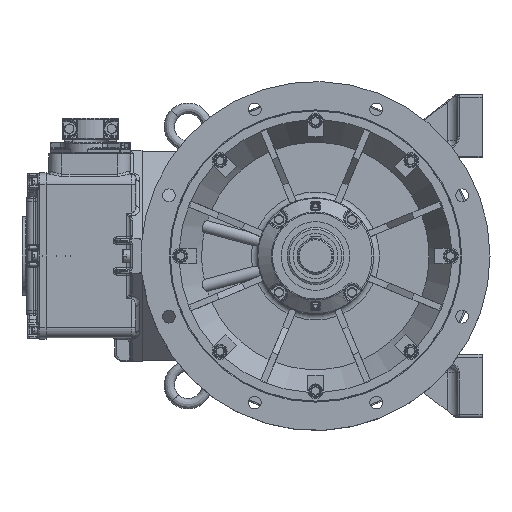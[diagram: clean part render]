
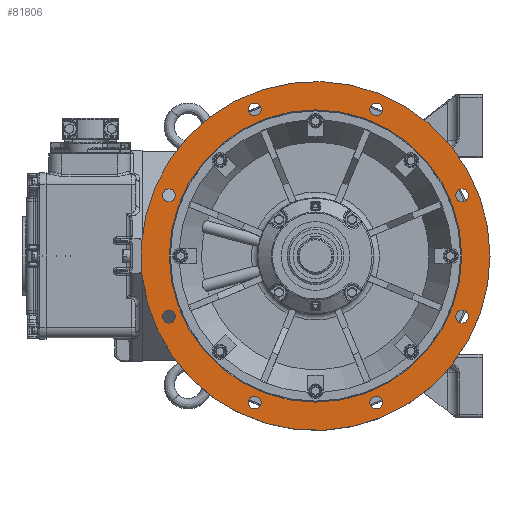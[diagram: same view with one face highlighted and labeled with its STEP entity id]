
A CAD part, left-side view. The second image highlights one B-rep face of the part: STEP entity #81806.
In plain terms, the highlighted planar face has unit normal (-1, 0, 0).
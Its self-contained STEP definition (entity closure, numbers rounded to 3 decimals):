
#20386=ORIENTED_EDGE('',*,*,#32660,.F.);
#20387=ORIENTED_EDGE('',*,*,#32662,.F.);
#20388=ORIENTED_EDGE('',*,*,#32664,.F.);
#20389=ORIENTED_EDGE('',*,*,#32666,.F.);
#20390=ORIENTED_EDGE('',*,*,#32668,.F.);
#20391=ORIENTED_EDGE('',*,*,#32670,.F.);
#20392=ORIENTED_EDGE('',*,*,#32672,.F.);
#20393=ORIENTED_EDGE('',*,*,#32674,.F.);
#20394=ORIENTED_EDGE('',*,*,#32957,.F.);
#20395=ORIENTED_EDGE('',*,*,#32958,.T.);
#32660=EDGE_CURVE('',#39643,#39643,#43518,.T.);
#32662=EDGE_CURVE('',#39645,#39645,#43520,.T.);
#32664=EDGE_CURVE('',#39647,#39647,#43522,.T.);
#32666=EDGE_CURVE('',#39649,#39649,#43524,.T.);
#32668=EDGE_CURVE('',#39651,#39651,#43526,.T.);
#32670=EDGE_CURVE('',#39653,#39653,#43528,.T.);
#32672=EDGE_CURVE('',#39655,#39655,#43530,.T.);
#32674=EDGE_CURVE('',#39657,#39657,#43532,.T.);
#32957=EDGE_CURVE('',#39845,#39845,#43623,.T.);
#32958=EDGE_CURVE('',#39846,#39846,#43624,.F.);
#39643=VERTEX_POINT('',#123805);
#39645=VERTEX_POINT('',#123810);
#39647=VERTEX_POINT('',#123815);
#39649=VERTEX_POINT('',#123820);
#39651=VERTEX_POINT('',#123825);
#39653=VERTEX_POINT('',#123830);
#39655=VERTEX_POINT('',#123835);
#39657=VERTEX_POINT('',#123840);
#39845=VERTEX_POINT('',#124653);
#39846=VERTEX_POINT('',#124655);
#43518=CIRCLE('',#86697,12.);
#43520=CIRCLE('',#86700,12.);
#43522=CIRCLE('',#86703,12.);
#43524=CIRCLE('',#86706,12.);
#43526=CIRCLE('',#86709,12.);
#43528=CIRCLE('',#86712,12.);
#43530=CIRCLE('',#86715,12.);
#43532=CIRCLE('',#86718,12.);
#43623=CIRCLE('',#86917,276.402);
#43624=CIRCLE('',#86918,330.);
#47243=EDGE_LOOP('',(#20386));
#47244=EDGE_LOOP('',(#20387));
#47245=EDGE_LOOP('',(#20388));
#47246=EDGE_LOOP('',(#20389));
#47247=EDGE_LOOP('',(#20390));
#47248=EDGE_LOOP('',(#20391));
#47249=EDGE_LOOP('',(#20392));
#47250=EDGE_LOOP('',(#20393));
#47251=EDGE_LOOP('',(#20394));
#47252=EDGE_LOOP('',(#20395));
#51351=FACE_BOUND('',#47243,.T.);
#51352=FACE_BOUND('',#47244,.T.);
#51353=FACE_BOUND('',#47245,.T.);
#51354=FACE_BOUND('',#47246,.T.);
#51355=FACE_BOUND('',#47247,.T.);
#51356=FACE_BOUND('',#47248,.T.);
#51357=FACE_BOUND('',#47249,.T.);
#51358=FACE_BOUND('',#47250,.T.);
#51359=FACE_BOUND('',#47251,.T.);
#51360=FACE_BOUND('',#47252,.T.);
#54441=PLANE('',#86916);
#81806=ADVANCED_FACE('',(#51351,#51352,#51353,#51354,#51355,#51356,#51357,
#51358,#51359,#51360),#54441,.F.);
#86697=AXIS2_PLACEMENT_3D('',#123804,#98669,#98670);
#86700=AXIS2_PLACEMENT_3D('',#123809,#98675,#98676);
#86703=AXIS2_PLACEMENT_3D('',#123814,#98681,#98682);
#86706=AXIS2_PLACEMENT_3D('',#123819,#98687,#98688);
#86709=AXIS2_PLACEMENT_3D('',#123824,#98693,#98694);
#86712=AXIS2_PLACEMENT_3D('',#123829,#98699,#98700);
#86715=AXIS2_PLACEMENT_3D('',#123834,#98705,#98706);
#86718=AXIS2_PLACEMENT_3D('',#123839,#98711,#98712);
#86916=AXIS2_PLACEMENT_3D('',#124651,#99233,#99234);
#86917=AXIS2_PLACEMENT_3D('',#124652,#99235,#99236);
#86918=AXIS2_PLACEMENT_3D('',#124654,#99237,#99238);
#98669=DIRECTION('',(-1.,0.,0.));
#98670=DIRECTION('',(0.,0.,1.));
#98675=DIRECTION('',(-1.,0.,0.));
#98676=DIRECTION('',(0.,0.,1.));
#98681=DIRECTION('',(-1.,0.,0.));
#98682=DIRECTION('',(0.,0.,1.));
#98687=DIRECTION('',(-1.,0.,0.));
#98688=DIRECTION('',(0.,0.,1.));
#98693=DIRECTION('',(-1.,0.,0.));
#98694=DIRECTION('',(0.,0.,1.));
#98699=DIRECTION('',(-1.,0.,0.));
#98700=DIRECTION('',(0.,0.,1.));
#98705=DIRECTION('',(-1.,0.,0.));
#98706=DIRECTION('',(0.,0.,1.));
#98711=DIRECTION('',(-1.,0.,0.));
#98712=DIRECTION('',(0.,0.,1.));
#99233=DIRECTION('',(1.,0.,0.));
#99234=DIRECTION('',(0.,-1.,0.));
#99235=DIRECTION('',(-1.,0.,0.));
#99236=DIRECTION('',(0.,1.,0.));
#99237=DIRECTION('',(1.,0.,0.));
#99238=DIRECTION('',(0.,-1.,0.));
#123804=CARTESIAN_POINT('',(-89.5,114.805,277.164));
#123805=CARTESIAN_POINT('',(-89.5,114.805,289.164));
#123809=CARTESIAN_POINT('',(-89.5,-114.805,277.164));
#123810=CARTESIAN_POINT('',(-89.5,-114.805,289.164));
#123814=CARTESIAN_POINT('',(-89.5,-277.164,114.805));
#123815=CARTESIAN_POINT('',(-89.5,-277.164,126.805));
#123819=CARTESIAN_POINT('',(-89.5,-277.164,-114.805));
#123820=CARTESIAN_POINT('',(-89.5,-277.164,-102.805));
#123824=CARTESIAN_POINT('',(-89.5,-114.805,-277.164));
#123825=CARTESIAN_POINT('',(-89.5,-114.805,-265.164));
#123829=CARTESIAN_POINT('',(-89.5,114.805,-277.164));
#123830=CARTESIAN_POINT('',(-89.5,114.805,-265.164));
#123834=CARTESIAN_POINT('',(-89.5,277.164,-114.805));
#123835=CARTESIAN_POINT('',(-89.5,277.164,-102.805));
#123839=CARTESIAN_POINT('',(-89.5,277.164,114.805));
#123840=CARTESIAN_POINT('',(-89.5,277.164,126.805));
#124651=CARTESIAN_POINT('',(-89.5,276.402,0.));
#124652=CARTESIAN_POINT('',(-89.5,0.,0.));
#124653=CARTESIAN_POINT('',(-89.5,276.402,0.));
#124654=CARTESIAN_POINT('',(-89.5,0.,0.));
#124655=CARTESIAN_POINT('',(-89.5,-330.,0.));
